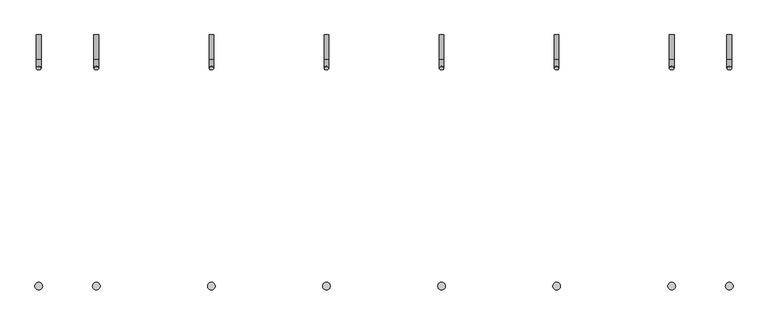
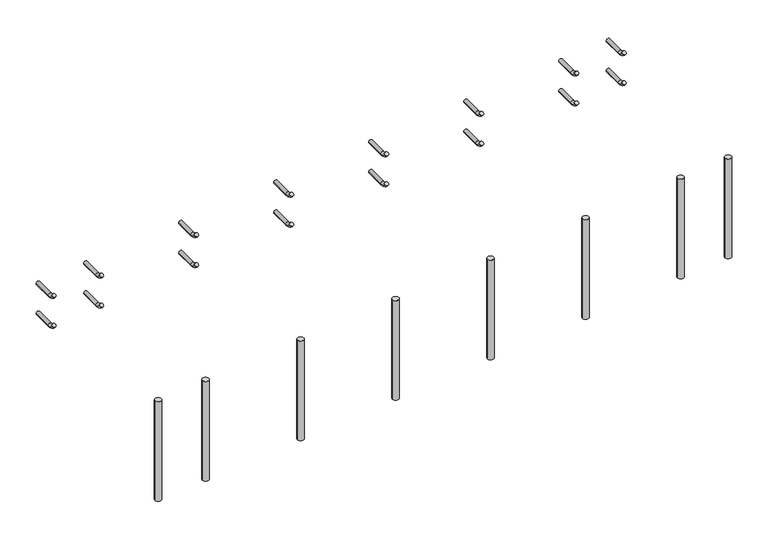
"""IFC4 building model written with IfcOpenShell, lengths in millimetres: proxy geometry, 常规模型 1 : 常规模型 1."""

from ifc_helpers import new_model, si_unit, point, frame, frame_2d, origin, place, context, project, spatial, circle_curve, ellipse_curve, trimmed, segment, composite_curve, outline, extrude, source, transform, mapped, element, save
from ifc_brep_helpers import plane_surface, cylinder_surface, revolved_surface, advanced_brep


def generic_models_b3a5f6b1(model_context):
    return source(origin(), model_context, "Body", "SolidModel", [
        advanced_brep(
        [(-5596.7579315, 4483.5094486, 180.0), (-5566.7579315, 4483.5094486, 180.0), (-5596.7579315, 4323.5094486, 180.0), (-5566.7579315, 4323.5094486, 180.0), (-5596.7579315, 4266.5887995, 206.5425346), (-5566.7579315, 4266.5887995, 206.5425346)],
        [
            (0, 1, circle_curve(frame((-5581.7579315, 4483.5094486, 180.0), z_axis=(0.0, 1.0, 0.0), x_axis=(1.0, 0.0, 0.0)), 15.0)),
            (1, 0, circle_curve(frame((-5581.7579315, 4483.5094486, 180.0), z_axis=(0.0, 1.0, 0.0), x_axis=(1.0, 0.0, 0.0)), 15.0)),
            (0, 2),
            (2, 3, circle_curve(frame((-5581.7579315, 4323.5094486, 180.0), z_axis=(0.0, 1.0, 0.0), x_axis=(1.0, 0.0, 0.0)), 15.0)),
            (3, 1),
            (3, 2, circle_curve(frame((-5581.7579315, 4323.5094486, 180.0), z_axis=(0.0, 1.0, 0.0), x_axis=(1.0, 0.0, 0.0)), 15.0)),
            (4, 5, circle_curve(frame((-5581.7579315, 4266.5887995, 206.5425346), z_axis=(0.0, -0.6427876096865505, 0.7660444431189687), x_axis=(1.0, 0.0, 0.0)), 15.0)),
            (5, 4, circle_curve(frame((-5581.7579315, 4266.5887995, 206.5425346), z_axis=(0.0, -0.6427876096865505, 0.7660444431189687), x_axis=(1.0, 0.0, 0.0)), 15.0)),
            (5, 3, circle_curve(frame((-5566.7579315, 4323.5094486, 254.3046302), z_axis=(1.0, 0.0, 0.0), x_axis=(0.0, 0.0, -1.0)), 74.3046302)),
            (2, 4, circle_curve(frame((-5596.7579315, 4323.5094486, 254.3046302), z_axis=(-1.0, 0.0, 0.0), x_axis=(0.0, 0.0, -1.0)), 74.3046302)),
        ],
        [
            plane_surface(frame((-5581.7579315, 4483.5094486, 180.0), z_axis=(0.0, 1.0, 0.0), x_axis=(1.0, 0.0, 0.0))),
            cylinder_surface(frame((-5581.7579315, 4483.5094486, 180.0), z_axis=(0.0, 1.0, 0.0), x_axis=(1.0, 0.0, 0.0)), 15.0),
            plane_surface(frame((-5581.7579315, 4266.5887995, 206.5425346), z_axis=(0.0, -0.6427876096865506, 0.7660444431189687), x_axis=(1.0, 0.0, 0.0))),
            revolved_surface(trimmed(ellipse_curve(frame((-5581.7579315, 4323.5094486, 180.0), z_axis=(0.0, 1.0, 0.0), x_axis=(1.0, 0.0, 0.0)), 15.0, 15.0), [point((-5596.7579315, 4323.5094486, 180.0))], [point((-5566.7579315, 4323.5094486, 180.0))], True, "CARTESIAN"), (-5581.7579315, 4323.5094486, 254.3046302), (-1.0, 0.0, 0.0)),
            revolved_surface(trimmed(ellipse_curve(frame((-5581.7579315, 4323.5094486, 180.0), z_axis=(0.0, 1.0, 0.0), x_axis=(1.0, 0.0, 0.0)), 15.0, 15.0), [point((-5566.7579315, 4323.5094486, 180.0))], [point((-5596.7579315, 4323.5094486, 180.0))], True, "CARTESIAN"), (-5581.7579315, 4323.5094486, 254.3046302), (-1.0, 0.0, 0.0)),
        ],
        [
            (0, [[1, 2]]),
            (1, [[-1, 3, 4, 5]]),
            (1, [[-2, -5, 6, -3]]),
            (2, [[7, 8]]),
            (3, [[9, -4, 10, -8]]),
            (4, [[-10, -6, -9, -7]]),
        ],
    ),
        advanced_brep(
        [(-5221.7579315, 4483.5094486, 217.5), (-5191.7579315, 4483.5094486, 217.5), (-5221.7579315, 4323.5094486, 217.5), (-5191.7579315, 4323.5094486, 217.5), (-5221.7579315, 4266.5887995, 244.0425346), (-5191.7579315, 4266.5887995, 244.0425346)],
        [
            (0, 1, circle_curve(frame((-5206.7579315, 4483.5094486, 217.5), z_axis=(0.0, 1.0, 0.0), x_axis=(1.0, 0.0, 0.0)), 15.0)),
            (1, 0, circle_curve(frame((-5206.7579315, 4483.5094486, 217.5), z_axis=(0.0, 1.0, 0.0), x_axis=(1.0, 0.0, 0.0)), 15.0)),
            (0, 2),
            (2, 3, circle_curve(frame((-5206.7579315, 4323.5094486, 217.5), z_axis=(0.0, 1.0, 0.0), x_axis=(1.0, 0.0, 0.0)), 15.0)),
            (3, 1),
            (3, 2, circle_curve(frame((-5206.7579315, 4323.5094486, 217.5), z_axis=(0.0, 1.0, 0.0), x_axis=(1.0, 0.0, 0.0)), 15.0)),
            (4, 5, circle_curve(frame((-5206.7579315, 4266.5887995, 244.0425346), z_axis=(0.0, -0.6427876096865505, 0.7660444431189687), x_axis=(1.0, 0.0, 0.0)), 15.0)),
            (5, 4, circle_curve(frame((-5206.7579315, 4266.5887995, 244.0425346), z_axis=(0.0, -0.6427876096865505, 0.7660444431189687), x_axis=(1.0, 0.0, 0.0)), 15.0)),
            (5, 3, circle_curve(frame((-5191.7579315, 4323.5094486, 291.8046302), z_axis=(1.0, 0.0, 0.0), x_axis=(0.0, 0.0, -1.0)), 74.3046302)),
            (2, 4, circle_curve(frame((-5221.7579315, 4323.5094486, 291.8046302), z_axis=(-1.0, 0.0, 0.0), x_axis=(0.0, 0.0, -1.0)), 74.3046302)),
        ],
        [
            plane_surface(frame((-5206.7579315, 4483.5094486, 217.5), z_axis=(0.0, 1.0, 0.0), x_axis=(1.0, 0.0, 0.0))),
            cylinder_surface(frame((-5206.7579315, 4483.5094486, 217.5), z_axis=(0.0, 1.0, 0.0), x_axis=(1.0, 0.0, 0.0)), 15.0),
            plane_surface(frame((-5206.7579315, 4266.5887995, 244.0425346), z_axis=(0.0, -0.6427876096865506, 0.7660444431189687), x_axis=(1.0, 0.0, 0.0))),
            revolved_surface(trimmed(ellipse_curve(frame((-5206.7579315, 4323.5094486, 217.5), z_axis=(0.0, 1.0, 0.0), x_axis=(1.0, 0.0, 0.0)), 15.0, 15.0), [point((-5221.7579315, 4323.5094486, 217.5))], [point((-5191.7579315, 4323.5094486, 217.5))], True, "CARTESIAN"), (-5206.7579315, 4323.5094486, 291.8046302), (-1.0, 0.0, 0.0)),
            revolved_surface(trimmed(ellipse_curve(frame((-5206.7579315, 4323.5094486, 217.5), z_axis=(0.0, 1.0, 0.0), x_axis=(1.0, 0.0, 0.0)), 15.0, 15.0), [point((-5191.7579315, 4323.5094486, 217.5))], [point((-5221.7579315, 4323.5094486, 217.5))], True, "CARTESIAN"), (-5206.7579315, 4323.5094486, 291.8046302), (-1.0, 0.0, 0.0)),
        ],
        [
            (0, [[1, 2]]),
            (1, [[-1, 3, 4, 5]]),
            (1, [[-2, -5, 6, -3]]),
            (2, [[7, 8]]),
            (3, [[9, -4, 10, -8]]),
            (4, [[-10, -6, -9, -7]]),
        ],
    ),
        advanced_brep(
        [(-4471.7579315, 4483.5094486, 292.5), (-4441.7579315, 4483.5094486, 292.5), (-4471.7579315, 4323.5094486, 292.5), (-4441.7579315, 4323.5094486, 292.5), (-4471.7579315, 4266.5887995, 319.0425346), (-4441.7579315, 4266.5887995, 319.0425346)],
        [
            (0, 1, circle_curve(frame((-4456.7579315, 4483.5094486, 292.5), z_axis=(0.0, 1.0, 0.0), x_axis=(1.0, 0.0, 0.0)), 15.0)),
            (1, 0, circle_curve(frame((-4456.7579315, 4483.5094486, 292.5), z_axis=(0.0, 1.0, 0.0), x_axis=(1.0, 0.0, 0.0)), 15.0)),
            (0, 2),
            (2, 3, circle_curve(frame((-4456.7579315, 4323.5094486, 292.5), z_axis=(0.0, 1.0, 0.0), x_axis=(1.0, 0.0, 0.0)), 15.0)),
            (3, 1),
            (3, 2, circle_curve(frame((-4456.7579315, 4323.5094486, 292.5), z_axis=(0.0, 1.0, 0.0), x_axis=(1.0, 0.0, 0.0)), 15.0)),
            (4, 5, circle_curve(frame((-4456.7579315, 4266.5887995, 319.0425346), z_axis=(0.0, -0.6427876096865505, 0.7660444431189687), x_axis=(1.0, 0.0, 0.0)), 15.0)),
            (5, 4, circle_curve(frame((-4456.7579315, 4266.5887995, 319.0425346), z_axis=(0.0, -0.6427876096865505, 0.7660444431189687), x_axis=(1.0, 0.0, 0.0)), 15.0)),
            (5, 3, circle_curve(frame((-4441.7579315, 4323.5094486, 366.8046302), z_axis=(1.0, 0.0, 0.0), x_axis=(0.0, 0.0, -1.0)), 74.3046302)),
            (2, 4, circle_curve(frame((-4471.7579315, 4323.5094486, 366.8046302), z_axis=(-1.0, 0.0, 0.0), x_axis=(0.0, 0.0, -1.0)), 74.3046302)),
        ],
        [
            plane_surface(frame((-4456.7579315, 4483.5094486, 292.5), z_axis=(0.0, 1.0, 0.0), x_axis=(1.0, 0.0, 0.0))),
            cylinder_surface(frame((-4456.7579315, 4483.5094486, 292.5), z_axis=(0.0, 1.0, 0.0), x_axis=(1.0, 0.0, 0.0)), 15.0),
            plane_surface(frame((-4456.7579315, 4266.5887995, 319.0425346), z_axis=(0.0, -0.6427876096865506, 0.7660444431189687), x_axis=(1.0, 0.0, 0.0))),
            revolved_surface(trimmed(ellipse_curve(frame((-4456.7579315, 4323.5094486, 292.5), z_axis=(0.0, 1.0, 0.0), x_axis=(1.0, 0.0, 0.0)), 15.0, 15.0), [point((-4471.7579315, 4323.5094486, 292.5))], [point((-4441.7579315, 4323.5094486, 292.5))], True, "CARTESIAN"), (-4456.7579315, 4323.5094486, 366.8046302), (-1.0, 0.0, 0.0)),
            revolved_surface(trimmed(ellipse_curve(frame((-4456.7579315, 4323.5094486, 292.5), z_axis=(0.0, 1.0, 0.0), x_axis=(1.0, 0.0, 0.0)), 15.0, 15.0), [point((-4441.7579315, 4323.5094486, 292.5))], [point((-4471.7579315, 4323.5094486, 292.5))], True, "CARTESIAN"), (-4456.7579315, 4323.5094486, 366.8046302), (-1.0, 0.0, 0.0)),
        ],
        [
            (0, [[1, 2]]),
            (1, [[-1, 3, 4, 5]]),
            (1, [[-2, -5, 6, -3]]),
            (2, [[7, 8]]),
            (3, [[9, -4, 10, -8]]),
            (4, [[-10, -6, -9, -7]]),
        ],
    ),
        advanced_brep(
        [(-3721.7579315, 4483.5094486, 367.5), (-3691.7579315, 4483.5094486, 367.5), (-3721.7579315, 4323.5094486, 367.5), (-3691.7579315, 4323.5094486, 367.5), (-3721.7579315, 4266.5887995, 394.0425346), (-3691.7579315, 4266.5887995, 394.0425346)],
        [
            (0, 1, circle_curve(frame((-3706.7579315, 4483.5094486, 367.5), z_axis=(0.0, 1.0, 0.0), x_axis=(1.0, 0.0, 0.0)), 15.0)),
            (1, 0, circle_curve(frame((-3706.7579315, 4483.5094486, 367.5), z_axis=(0.0, 1.0, 0.0), x_axis=(1.0, 0.0, 0.0)), 15.0)),
            (0, 2),
            (2, 3, circle_curve(frame((-3706.7579315, 4323.5094486, 367.5), z_axis=(0.0, 1.0, 0.0), x_axis=(1.0, 0.0, 0.0)), 15.0)),
            (3, 1),
            (3, 2, circle_curve(frame((-3706.7579315, 4323.5094486, 367.5), z_axis=(0.0, 1.0, 0.0), x_axis=(1.0, 0.0, 0.0)), 15.0)),
            (4, 5, circle_curve(frame((-3706.7579315, 4266.5887995, 394.0425346), z_axis=(0.0, -0.6427876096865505, 0.7660444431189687), x_axis=(1.0, 0.0, 0.0)), 15.0)),
            (5, 4, circle_curve(frame((-3706.7579315, 4266.5887995, 394.0425346), z_axis=(0.0, -0.6427876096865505, 0.7660444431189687), x_axis=(1.0, 0.0, 0.0)), 15.0)),
            (5, 3, circle_curve(frame((-3691.7579315, 4323.5094486, 441.8046302), z_axis=(1.0, 0.0, 0.0), x_axis=(0.0, 0.0, -1.0)), 74.3046302)),
            (2, 4, circle_curve(frame((-3721.7579315, 4323.5094486, 441.8046302), z_axis=(-1.0, 0.0, 0.0), x_axis=(0.0, 0.0, -1.0)), 74.3046302)),
        ],
        [
            plane_surface(frame((-3706.7579315, 4483.5094486, 367.5), z_axis=(0.0, 1.0, 0.0), x_axis=(1.0, 0.0, 0.0))),
            cylinder_surface(frame((-3706.7579315, 4483.5094486, 367.5), z_axis=(0.0, 1.0, 0.0), x_axis=(1.0, 0.0, 0.0)), 15.0),
            plane_surface(frame((-3706.7579315, 4266.5887995, 394.0425346), z_axis=(0.0, -0.6427876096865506, 0.7660444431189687), x_axis=(1.0, 0.0, 0.0))),
            revolved_surface(trimmed(ellipse_curve(frame((-3706.7579315, 4323.5094486, 367.5), z_axis=(0.0, 1.0, 0.0), x_axis=(1.0, 0.0, 0.0)), 15.0, 15.0), [point((-3721.7579315, 4323.5094486, 367.5))], [point((-3691.7579315, 4323.5094486, 367.5))], True, "CARTESIAN"), (-3706.7579315, 4323.5094486, 441.8046302), (-1.0, 0.0, 0.0)),
            revolved_surface(trimmed(ellipse_curve(frame((-3706.7579315, 4323.5094486, 367.5), z_axis=(0.0, 1.0, 0.0), x_axis=(1.0, 0.0, 0.0)), 15.0, 15.0), [point((-3691.7579315, 4323.5094486, 367.5))], [point((-3721.7579315, 4323.5094486, 367.5))], True, "CARTESIAN"), (-3706.7579315, 4323.5094486, 441.8046302), (-1.0, 0.0, 0.0)),
        ],
        [
            (0, [[1, 2]]),
            (1, [[-1, 3, 4, 5]]),
            (1, [[-2, -5, 6, -3]]),
            (2, [[7, 8]]),
            (3, [[9, -4, 10, -8]]),
            (4, [[-10, -6, -9, -7]]),
        ],
    ),
        advanced_brep(
        [(-2971.7579315, 4483.5094486, 442.5), (-2941.7579315, 4483.5094486, 442.5), (-2971.7579315, 4323.5094486, 442.5), (-2941.7579315, 4323.5094486, 442.5), (-2971.7579315, 4266.5887995, 469.0425346), (-2941.7579315, 4266.5887995, 469.0425346)],
        [
            (0, 1, circle_curve(frame((-2956.7579315, 4483.5094486, 442.5), z_axis=(0.0, 1.0, 0.0), x_axis=(1.0, 0.0, 0.0)), 15.0)),
            (1, 0, circle_curve(frame((-2956.7579315, 4483.5094486, 442.5), z_axis=(0.0, 1.0, 0.0), x_axis=(1.0, 0.0, 0.0)), 15.0)),
            (0, 2),
            (2, 3, circle_curve(frame((-2956.7579315, 4323.5094486, 442.5), z_axis=(0.0, 1.0, 0.0), x_axis=(1.0, 0.0, 0.0)), 15.0)),
            (3, 1),
            (3, 2, circle_curve(frame((-2956.7579315, 4323.5094486, 442.5), z_axis=(0.0, 1.0, 0.0), x_axis=(1.0, 0.0, 0.0)), 15.0)),
            (4, 5, circle_curve(frame((-2956.7579315, 4266.5887995, 469.0425346), z_axis=(0.0, -0.6427876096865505, 0.7660444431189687), x_axis=(1.0, 0.0, 0.0)), 15.0)),
            (5, 4, circle_curve(frame((-2956.7579315, 4266.5887995, 469.0425346), z_axis=(0.0, -0.6427876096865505, 0.7660444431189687), x_axis=(1.0, 0.0, 0.0)), 15.0)),
            (5, 3, circle_curve(frame((-2941.7579315, 4323.5094486, 516.8046302), z_axis=(1.0, 0.0, 0.0), x_axis=(0.0, 0.0, -1.0)), 74.3046302)),
            (2, 4, circle_curve(frame((-2971.7579315, 4323.5094486, 516.8046302), z_axis=(-1.0, 0.0, 0.0), x_axis=(0.0, 0.0, -1.0)), 74.3046302)),
        ],
        [
            plane_surface(frame((-2956.7579315, 4483.5094486, 442.5), z_axis=(0.0, 1.0, 0.0), x_axis=(1.0, 0.0, 0.0))),
            cylinder_surface(frame((-2956.7579315, 4483.5094486, 442.5), z_axis=(0.0, 1.0, 0.0), x_axis=(1.0, 0.0, 0.0)), 15.0),
            plane_surface(frame((-2956.7579315, 4266.5887995, 469.0425346), z_axis=(0.0, -0.6427876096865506, 0.7660444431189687), x_axis=(1.0, 0.0, 0.0))),
            revolved_surface(trimmed(ellipse_curve(frame((-2956.7579315, 4323.5094486, 442.5), z_axis=(0.0, 1.0, 0.0), x_axis=(1.0, 0.0, 0.0)), 15.0, 15.0), [point((-2971.7579315, 4323.5094486, 442.5))], [point((-2941.7579315, 4323.5094486, 442.5))], True, "CARTESIAN"), (-2956.7579315, 4323.5094486, 516.8046302), (-1.0, 0.0, 0.0)),
            revolved_surface(trimmed(ellipse_curve(frame((-2956.7579315, 4323.5094486, 442.5), z_axis=(0.0, 1.0, 0.0), x_axis=(1.0, 0.0, 0.0)), 15.0, 15.0), [point((-2941.7579315, 4323.5094486, 442.5))], [point((-2971.7579315, 4323.5094486, 442.5))], True, "CARTESIAN"), (-2956.7579315, 4323.5094486, 516.8046302), (-1.0, 0.0, 0.0)),
        ],
        [
            (0, [[1, 2]]),
            (1, [[-1, 3, 4, 5]]),
            (1, [[-2, -5, 6, -3]]),
            (2, [[7, 8]]),
            (3, [[9, -4, 10, -8]]),
            (4, [[-10, -6, -9, -7]]),
        ],
    ),
        advanced_brep(
        [(-2221.7579315, 4483.5094486, 517.5), (-2191.7579315, 4483.5094486, 517.5), (-2221.7579315, 4323.5094486, 517.5), (-2191.7579315, 4323.5094486, 517.5), (-2221.7579315, 4266.5887995, 544.0425346), (-2191.7579315, 4266.5887995, 544.0425346)],
        [
            (0, 1, circle_curve(frame((-2206.7579315, 4483.5094486, 517.5), z_axis=(0.0, 1.0, 0.0), x_axis=(1.0, 0.0, 0.0)), 15.0)),
            (1, 0, circle_curve(frame((-2206.7579315, 4483.5094486, 517.5), z_axis=(0.0, 1.0, 0.0), x_axis=(1.0, 0.0, 0.0)), 15.0)),
            (0, 2),
            (2, 3, circle_curve(frame((-2206.7579315, 4323.5094486, 517.5), z_axis=(0.0, 1.0, 0.0), x_axis=(1.0, 0.0, 0.0)), 15.0)),
            (3, 1),
            (3, 2, circle_curve(frame((-2206.7579315, 4323.5094486, 517.5), z_axis=(0.0, 1.0, 0.0), x_axis=(1.0, 0.0, 0.0)), 15.0)),
            (4, 5, circle_curve(frame((-2206.7579315, 4266.5887995, 544.0425346), z_axis=(0.0, -0.6427876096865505, 0.7660444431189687), x_axis=(1.0, 0.0, 0.0)), 15.0)),
            (5, 4, circle_curve(frame((-2206.7579315, 4266.5887995, 544.0425346), z_axis=(0.0, -0.6427876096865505, 0.7660444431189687), x_axis=(1.0, 0.0, 0.0)), 15.0)),
            (5, 3, circle_curve(frame((-2191.7579315, 4323.5094486, 591.8046302), z_axis=(1.0, 0.0, 0.0), x_axis=(0.0, 0.0, -1.0)), 74.3046302)),
            (2, 4, circle_curve(frame((-2221.7579315, 4323.5094486, 591.8046302), z_axis=(-1.0, 0.0, 0.0), x_axis=(0.0, 0.0, -1.0)), 74.3046302)),
        ],
        [
            plane_surface(frame((-2206.7579315, 4483.5094486, 517.5), z_axis=(0.0, 1.0, 0.0), x_axis=(1.0, 0.0, 0.0))),
            cylinder_surface(frame((-2206.7579315, 4483.5094486, 517.5), z_axis=(0.0, 1.0, 0.0), x_axis=(1.0, 0.0, 0.0)), 15.0),
            plane_surface(frame((-2206.7579315, 4266.5887995, 544.0425346), z_axis=(0.0, -0.6427876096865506, 0.7660444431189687), x_axis=(1.0, 0.0, 0.0))),
            revolved_surface(trimmed(ellipse_curve(frame((-2206.7579315, 4323.5094486, 517.5), z_axis=(0.0, 1.0, 0.0), x_axis=(1.0, 0.0, 0.0)), 15.0, 15.0), [point((-2221.7579315, 4323.5094486, 517.5))], [point((-2191.7579315, 4323.5094486, 517.5))], True, "CARTESIAN"), (-2206.7579315, 4323.5094486, 591.8046302), (-1.0, 0.0, 0.0)),
            revolved_surface(trimmed(ellipse_curve(frame((-2206.7579315, 4323.5094486, 517.5), z_axis=(0.0, 1.0, 0.0), x_axis=(1.0, 0.0, 0.0)), 15.0, 15.0), [point((-2191.7579315, 4323.5094486, 517.5))], [point((-2221.7579315, 4323.5094486, 517.5))], True, "CARTESIAN"), (-2206.7579315, 4323.5094486, 591.8046302), (-1.0, 0.0, 0.0)),
        ],
        [
            (0, [[1, 2]]),
            (1, [[-1, 3, 4, 5]]),
            (1, [[-2, -5, 6, -3]]),
            (2, [[7, 8]]),
            (3, [[9, -4, 10, -8]]),
            (4, [[-10, -6, -9, -7]]),
        ],
    ),
        advanced_brep(
        [(-1471.7579315, 4483.5094486, 592.5), (-1441.7579315, 4483.5094486, 592.5), (-1471.7579315, 4323.5094486, 592.5), (-1441.7579315, 4323.5094486, 592.5), (-1471.7579315, 4266.5887995, 619.0425346), (-1441.7579315, 4266.5887995, 619.0425346)],
        [
            (0, 1, circle_curve(frame((-1456.7579315, 4483.5094486, 592.5), z_axis=(0.0, 1.0, 0.0), x_axis=(1.0, 0.0, 0.0)), 15.0)),
            (1, 0, circle_curve(frame((-1456.7579315, 4483.5094486, 592.5), z_axis=(0.0, 1.0, 0.0), x_axis=(1.0, 0.0, 0.0)), 15.0)),
            (0, 2),
            (2, 3, circle_curve(frame((-1456.7579315, 4323.5094486, 592.5), z_axis=(0.0, 1.0, 0.0), x_axis=(1.0, 0.0, 0.0)), 15.0)),
            (3, 1),
            (3, 2, circle_curve(frame((-1456.7579315, 4323.5094486, 592.5), z_axis=(0.0, 1.0, 0.0), x_axis=(1.0, 0.0, 0.0)), 15.0)),
            (4, 5, circle_curve(frame((-1456.7579315, 4266.5887995, 619.0425346), z_axis=(0.0, -0.6427876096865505, 0.7660444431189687), x_axis=(1.0, 0.0, 0.0)), 15.0)),
            (5, 4, circle_curve(frame((-1456.7579315, 4266.5887995, 619.0425346), z_axis=(0.0, -0.6427876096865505, 0.7660444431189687), x_axis=(1.0, 0.0, 0.0)), 15.0)),
            (5, 3, circle_curve(frame((-1441.7579315, 4323.5094486, 666.8046302), z_axis=(1.0, 0.0, 0.0), x_axis=(0.0, 0.0, -1.0)), 74.3046302)),
            (2, 4, circle_curve(frame((-1471.7579315, 4323.5094486, 666.8046302), z_axis=(-1.0, 0.0, 0.0), x_axis=(0.0, 0.0, -1.0)), 74.3046302)),
        ],
        [
            plane_surface(frame((-1456.7579315, 4483.5094486, 592.5), z_axis=(0.0, 1.0, 0.0), x_axis=(1.0, 0.0, 0.0))),
            cylinder_surface(frame((-1456.7579315, 4483.5094486, 592.5), z_axis=(0.0, 1.0, 0.0), x_axis=(1.0, 0.0, 0.0)), 15.0),
            plane_surface(frame((-1456.7579315, 4266.5887995, 619.0425346), z_axis=(0.0, -0.6427876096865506, 0.7660444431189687), x_axis=(1.0, 0.0, 0.0))),
            revolved_surface(trimmed(ellipse_curve(frame((-1456.7579315, 4323.5094486, 592.5), z_axis=(0.0, 1.0, 0.0), x_axis=(1.0, 0.0, 0.0)), 15.0, 15.0), [point((-1471.7579315, 4323.5094486, 592.5))], [point((-1441.7579315, 4323.5094486, 592.5))], True, "CARTESIAN"), (-1456.7579315, 4323.5094486, 666.8046302), (-1.0, 0.0, 0.0)),
            revolved_surface(trimmed(ellipse_curve(frame((-1456.7579315, 4323.5094486, 592.5), z_axis=(0.0, 1.0, 0.0), x_axis=(1.0, 0.0, 0.0)), 15.0, 15.0), [point((-1441.7579315, 4323.5094486, 592.5))], [point((-1471.7579315, 4323.5094486, 592.5))], True, "CARTESIAN"), (-1456.7579315, 4323.5094486, 666.8046302), (-1.0, 0.0, 0.0)),
        ],
        [
            (0, [[1, 2]]),
            (1, [[-1, 3, 4, 5]]),
            (1, [[-2, -5, 6, -3]]),
            (2, [[7, 8]]),
            (3, [[9, -4, 10, -8]]),
            (4, [[-10, -6, -9, -7]]),
        ],
    ),
        advanced_brep(
        [(-1096.7579315, 4483.5094486, 630.0), (-1066.7579315, 4483.5094486, 630.0), (-1096.7579315, 4323.5094486, 630.0), (-1066.7579315, 4323.5094486, 630.0), (-1096.7579315, 4266.5887995, 656.5425346), (-1066.7579315, 4266.5887995, 656.5425346)],
        [
            (0, 1, circle_curve(frame((-1081.7579315, 4483.5094486, 630.0), z_axis=(0.0, 1.0, 0.0), x_axis=(1.0, 0.0, 0.0)), 15.0)),
            (1, 0, circle_curve(frame((-1081.7579315, 4483.5094486, 630.0), z_axis=(0.0, 1.0, 0.0), x_axis=(1.0, 0.0, 0.0)), 15.0)),
            (0, 2),
            (2, 3, circle_curve(frame((-1081.7579315, 4323.5094486, 630.0), z_axis=(0.0, 1.0, 0.0), x_axis=(1.0, 0.0, 0.0)), 15.0)),
            (3, 1),
            (3, 2, circle_curve(frame((-1081.7579315, 4323.5094486, 630.0), z_axis=(0.0, 1.0, 0.0), x_axis=(1.0, 0.0, 0.0)), 15.0)),
            (4, 5, circle_curve(frame((-1081.7579315, 4266.5887995, 656.5425346), z_axis=(0.0, -0.6427876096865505, 0.7660444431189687), x_axis=(1.0, 0.0, 0.0)), 15.0)),
            (5, 4, circle_curve(frame((-1081.7579315, 4266.5887995, 656.5425346), z_axis=(0.0, -0.6427876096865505, 0.7660444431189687), x_axis=(1.0, 0.0, 0.0)), 15.0)),
            (5, 3, circle_curve(frame((-1066.7579315, 4323.5094486, 704.3046302), z_axis=(1.0, 0.0, 0.0), x_axis=(0.0, 0.0, -1.0)), 74.3046302)),
            (2, 4, circle_curve(frame((-1096.7579315, 4323.5094486, 704.3046302), z_axis=(-1.0, 0.0, 0.0), x_axis=(0.0, 0.0, -1.0)), 74.3046302)),
        ],
        [
            plane_surface(frame((-1081.7579315, 4483.5094486, 630.0), z_axis=(0.0, 1.0, 0.0), x_axis=(1.0, 0.0, 0.0))),
            cylinder_surface(frame((-1081.7579315, 4483.5094486, 630.0), z_axis=(0.0, 1.0, 0.0), x_axis=(1.0, 0.0, 0.0)), 15.0),
            plane_surface(frame((-1081.7579315, 4266.5887995, 656.5425346), z_axis=(0.0, -0.6427876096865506, 0.7660444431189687), x_axis=(1.0, 0.0, 0.0))),
            revolved_surface(trimmed(ellipse_curve(frame((-1081.7579315, 4323.5094486, 630.0), z_axis=(0.0, 1.0, 0.0), x_axis=(1.0, 0.0, 0.0)), 15.0, 15.0), [point((-1096.7579315, 4323.5094486, 630.0))], [point((-1066.7579315, 4323.5094486, 630.0))], True, "CARTESIAN"), (-1081.7579315, 4323.5094486, 704.3046302), (-1.0, 0.0, 0.0)),
            revolved_surface(trimmed(ellipse_curve(frame((-1081.7579315, 4323.5094486, 630.0), z_axis=(0.0, 1.0, 0.0), x_axis=(1.0, 0.0, 0.0)), 15.0, 15.0), [point((-1066.7579315, 4323.5094486, 630.0))], [point((-1096.7579315, 4323.5094486, 630.0))], True, "CARTESIAN"), (-1081.7579315, 4323.5094486, 704.3046302), (-1.0, 0.0, 0.0)),
        ],
        [
            (0, [[1, 2]]),
            (1, [[-1, 3, 4, 5]]),
            (1, [[-2, -5, 6, -3]]),
            (2, [[7, 8]]),
            (3, [[9, -4, 10, -8]]),
            (4, [[-10, -6, -9, -7]]),
        ],
    ),
        advanced_brep(
        [(-5596.7579315, 4483.5094486, 430.0), (-5566.7579315, 4483.5094486, 430.0), (-5596.7579315, 4323.5094486, 430.0), (-5566.7579315, 4323.5094486, 430.0), (-5596.7579315, 4266.5887995, 456.5425346), (-5566.7579315, 4266.5887995, 456.5425346)],
        [
            (0, 1, circle_curve(frame((-5581.7579315, 4483.5094486, 430.0), z_axis=(0.0, 1.0, 0.0), x_axis=(1.0, 0.0, 0.0)), 15.0)),
            (1, 0, circle_curve(frame((-5581.7579315, 4483.5094486, 430.0), z_axis=(0.0, 1.0, 0.0), x_axis=(1.0, 0.0, 0.0)), 15.0)),
            (0, 2),
            (2, 3, circle_curve(frame((-5581.7579315, 4323.5094486, 430.0), z_axis=(0.0, 1.0, 0.0), x_axis=(1.0, 0.0, 0.0)), 15.0)),
            (3, 1),
            (3, 2, circle_curve(frame((-5581.7579315, 4323.5094486, 430.0), z_axis=(0.0, 1.0, 0.0), x_axis=(1.0, 0.0, 0.0)), 15.0)),
            (4, 5, circle_curve(frame((-5581.7579315, 4266.5887995, 456.5425346), z_axis=(0.0, -0.6427876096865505, 0.7660444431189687), x_axis=(1.0, 0.0, 0.0)), 15.0)),
            (5, 4, circle_curve(frame((-5581.7579315, 4266.5887995, 456.5425346), z_axis=(0.0, -0.6427876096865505, 0.7660444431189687), x_axis=(1.0, 0.0, 0.0)), 15.0)),
            (5, 3, circle_curve(frame((-5566.7579315, 4323.5094486, 504.3046302), z_axis=(1.0, 0.0, 0.0), x_axis=(0.0, 0.0, -1.0)), 74.3046302)),
            (2, 4, circle_curve(frame((-5596.7579315, 4323.5094486, 504.3046302), z_axis=(-1.0, 0.0, 0.0), x_axis=(0.0, 0.0, -1.0)), 74.3046302)),
        ],
        [
            plane_surface(frame((-5581.7579315, 4483.5094486, 430.0), z_axis=(0.0, 1.0, 0.0), x_axis=(1.0, 0.0, 0.0))),
            cylinder_surface(frame((-5581.7579315, 4483.5094486, 430.0), z_axis=(0.0, 1.0, 0.0), x_axis=(1.0, 0.0, 0.0)), 15.0),
            plane_surface(frame((-5581.7579315, 4266.5887995, 456.5425346), z_axis=(0.0, -0.6427876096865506, 0.7660444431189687), x_axis=(1.0, 0.0, 0.0))),
            revolved_surface(trimmed(ellipse_curve(frame((-5581.7579315, 4323.5094486, 430.0), z_axis=(0.0, 1.0, 0.0), x_axis=(1.0, 0.0, 0.0)), 15.0, 15.0), [point((-5596.7579315, 4323.5094486, 430.0))], [point((-5566.7579315, 4323.5094486, 430.0))], True, "CARTESIAN"), (-5581.7579315, 4323.5094486, 504.3046302), (-1.0, 0.0, 0.0)),
            revolved_surface(trimmed(ellipse_curve(frame((-5581.7579315, 4323.5094486, 430.0), z_axis=(0.0, 1.0, 0.0), x_axis=(1.0, 0.0, 0.0)), 15.0, 15.0), [point((-5566.7579315, 4323.5094486, 430.0))], [point((-5596.7579315, 4323.5094486, 430.0))], True, "CARTESIAN"), (-5581.7579315, 4323.5094486, 504.3046302), (-1.0, 0.0, 0.0)),
        ],
        [
            (0, [[1, 2]]),
            (1, [[-1, 3, 4, 5]]),
            (1, [[-2, -5, 6, -3]]),
            (2, [[7, 8]]),
            (3, [[9, -4, 10, -8]]),
            (4, [[-10, -6, -9, -7]]),
        ],
    ),
        advanced_brep(
        [(-5221.7579315, 4483.5094486, 467.5), (-5191.7579315, 4483.5094486, 467.5), (-5221.7579315, 4323.5094486, 467.5), (-5191.7579315, 4323.5094486, 467.5), (-5221.7579315, 4266.5887995, 494.0425346), (-5191.7579315, 4266.5887995, 494.0425346)],
        [
            (0, 1, circle_curve(frame((-5206.7579315, 4483.5094486, 467.5), z_axis=(0.0, 1.0, 0.0), x_axis=(1.0, 0.0, 0.0)), 15.0)),
            (1, 0, circle_curve(frame((-5206.7579315, 4483.5094486, 467.5), z_axis=(0.0, 1.0, 0.0), x_axis=(1.0, 0.0, 0.0)), 15.0)),
            (0, 2),
            (2, 3, circle_curve(frame((-5206.7579315, 4323.5094486, 467.5), z_axis=(0.0, 1.0, 0.0), x_axis=(1.0, 0.0, 0.0)), 15.0)),
            (3, 1),
            (3, 2, circle_curve(frame((-5206.7579315, 4323.5094486, 467.5), z_axis=(0.0, 1.0, 0.0), x_axis=(1.0, 0.0, 0.0)), 15.0)),
            (4, 5, circle_curve(frame((-5206.7579315, 4266.5887995, 494.0425346), z_axis=(0.0, -0.6427876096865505, 0.7660444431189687), x_axis=(1.0, 0.0, 0.0)), 15.0)),
            (5, 4, circle_curve(frame((-5206.7579315, 4266.5887995, 494.0425346), z_axis=(0.0, -0.6427876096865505, 0.7660444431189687), x_axis=(1.0, 0.0, 0.0)), 15.0)),
            (5, 3, circle_curve(frame((-5191.7579315, 4323.5094486, 541.8046302), z_axis=(1.0, 0.0, 0.0), x_axis=(0.0, 0.0, -1.0)), 74.3046302)),
            (2, 4, circle_curve(frame((-5221.7579315, 4323.5094486, 541.8046302), z_axis=(-1.0, 0.0, 0.0), x_axis=(0.0, 0.0, -1.0)), 74.3046302)),
        ],
        [
            plane_surface(frame((-5206.7579315, 4483.5094486, 467.5), z_axis=(0.0, 1.0, 0.0), x_axis=(1.0, 0.0, 0.0))),
            cylinder_surface(frame((-5206.7579315, 4483.5094486, 467.5), z_axis=(0.0, 1.0, 0.0), x_axis=(1.0, 0.0, 0.0)), 15.0),
            plane_surface(frame((-5206.7579315, 4266.5887995, 494.0425346), z_axis=(0.0, -0.6427876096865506, 0.7660444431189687), x_axis=(1.0, 0.0, 0.0))),
            revolved_surface(trimmed(ellipse_curve(frame((-5206.7579315, 4323.5094486, 467.5), z_axis=(0.0, 1.0, 0.0), x_axis=(1.0, 0.0, 0.0)), 15.0, 15.0), [point((-5221.7579315, 4323.5094486, 467.5))], [point((-5191.7579315, 4323.5094486, 467.5))], True, "CARTESIAN"), (-5206.7579315, 4323.5094486, 541.8046302), (-1.0, 0.0, 0.0)),
            revolved_surface(trimmed(ellipse_curve(frame((-5206.7579315, 4323.5094486, 467.5), z_axis=(0.0, 1.0, 0.0), x_axis=(1.0, 0.0, 0.0)), 15.0, 15.0), [point((-5191.7579315, 4323.5094486, 467.5))], [point((-5221.7579315, 4323.5094486, 467.5))], True, "CARTESIAN"), (-5206.7579315, 4323.5094486, 541.8046302), (-1.0, 0.0, 0.0)),
        ],
        [
            (0, [[1, 2]]),
            (1, [[-1, 3, 4, 5]]),
            (1, [[-2, -5, 6, -3]]),
            (2, [[7, 8]]),
            (3, [[9, -4, 10, -8]]),
            (4, [[-10, -6, -9, -7]]),
        ],
    ),
        advanced_brep(
        [(-4471.7579315, 4483.5094486, 542.5), (-4441.7579315, 4483.5094486, 542.5), (-4471.7579315, 4323.5094486, 542.5), (-4441.7579315, 4323.5094486, 542.5), (-4471.7579315, 4266.5887995, 569.0425346), (-4441.7579315, 4266.5887995, 569.0425346)],
        [
            (0, 1, circle_curve(frame((-4456.7579315, 4483.5094486, 542.5), z_axis=(0.0, 1.0, 0.0), x_axis=(1.0, 0.0, 0.0)), 15.0)),
            (1, 0, circle_curve(frame((-4456.7579315, 4483.5094486, 542.5), z_axis=(0.0, 1.0, 0.0), x_axis=(1.0, 0.0, 0.0)), 15.0)),
            (0, 2),
            (2, 3, circle_curve(frame((-4456.7579315, 4323.5094486, 542.5), z_axis=(0.0, 1.0, 0.0), x_axis=(1.0, 0.0, 0.0)), 15.0)),
            (3, 1),
            (3, 2, circle_curve(frame((-4456.7579315, 4323.5094486, 542.5), z_axis=(0.0, 1.0, 0.0), x_axis=(1.0, 0.0, 0.0)), 15.0)),
            (4, 5, circle_curve(frame((-4456.7579315, 4266.5887995, 569.0425346), z_axis=(0.0, -0.6427876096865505, 0.7660444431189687), x_axis=(1.0, 0.0, 0.0)), 15.0)),
            (5, 4, circle_curve(frame((-4456.7579315, 4266.5887995, 569.0425346), z_axis=(0.0, -0.6427876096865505, 0.7660444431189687), x_axis=(1.0, 0.0, 0.0)), 15.0)),
            (5, 3, circle_curve(frame((-4441.7579315, 4323.5094486, 616.8046302), z_axis=(1.0, 0.0, 0.0), x_axis=(0.0, 0.0, -1.0)), 74.3046302)),
            (2, 4, circle_curve(frame((-4471.7579315, 4323.5094486, 616.8046302), z_axis=(-1.0, 0.0, 0.0), x_axis=(0.0, 0.0, -1.0)), 74.3046302)),
        ],
        [
            plane_surface(frame((-4456.7579315, 4483.5094486, 542.5), z_axis=(0.0, 1.0, 0.0), x_axis=(1.0, 0.0, 0.0))),
            cylinder_surface(frame((-4456.7579315, 4483.5094486, 542.5), z_axis=(0.0, 1.0, 0.0), x_axis=(1.0, 0.0, 0.0)), 15.0),
            plane_surface(frame((-4456.7579315, 4266.5887995, 569.0425346), z_axis=(0.0, -0.6427876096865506, 0.7660444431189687), x_axis=(1.0, 0.0, 0.0))),
            revolved_surface(trimmed(ellipse_curve(frame((-4456.7579315, 4323.5094486, 542.5), z_axis=(0.0, 1.0, 0.0), x_axis=(1.0, 0.0, 0.0)), 15.0, 15.0), [point((-4471.7579315, 4323.5094486, 542.5))], [point((-4441.7579315, 4323.5094486, 542.5))], True, "CARTESIAN"), (-4456.7579315, 4323.5094486, 616.8046302), (-1.0, 0.0, 0.0)),
            revolved_surface(trimmed(ellipse_curve(frame((-4456.7579315, 4323.5094486, 542.5), z_axis=(0.0, 1.0, 0.0), x_axis=(1.0, 0.0, 0.0)), 15.0, 15.0), [point((-4441.7579315, 4323.5094486, 542.5))], [point((-4471.7579315, 4323.5094486, 542.5))], True, "CARTESIAN"), (-4456.7579315, 4323.5094486, 616.8046302), (-1.0, 0.0, 0.0)),
        ],
        [
            (0, [[1, 2]]),
            (1, [[-1, 3, 4, 5]]),
            (1, [[-2, -5, 6, -3]]),
            (2, [[7, 8]]),
            (3, [[9, -4, 10, -8]]),
            (4, [[-10, -6, -9, -7]]),
        ],
    ),
        advanced_brep(
        [(-3721.7579315, 4483.5094486, 617.5), (-3691.7579315, 4483.5094486, 617.5), (-3721.7579315, 4323.5094486, 617.5), (-3691.7579315, 4323.5094486, 617.5), (-3721.7579315, 4266.5887995, 644.0425346), (-3691.7579315, 4266.5887995, 644.0425346)],
        [
            (0, 1, circle_curve(frame((-3706.7579315, 4483.5094486, 617.5), z_axis=(0.0, 1.0, 0.0), x_axis=(1.0, 0.0, 0.0)), 15.0)),
            (1, 0, circle_curve(frame((-3706.7579315, 4483.5094486, 617.5), z_axis=(0.0, 1.0, 0.0), x_axis=(1.0, 0.0, 0.0)), 15.0)),
            (0, 2),
            (2, 3, circle_curve(frame((-3706.7579315, 4323.5094486, 617.5), z_axis=(0.0, 1.0, 0.0), x_axis=(1.0, 0.0, 0.0)), 15.0)),
            (3, 1),
            (3, 2, circle_curve(frame((-3706.7579315, 4323.5094486, 617.5), z_axis=(0.0, 1.0, 0.0), x_axis=(1.0, 0.0, 0.0)), 15.0)),
            (4, 5, circle_curve(frame((-3706.7579315, 4266.5887995, 644.0425346), z_axis=(0.0, -0.6427876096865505, 0.7660444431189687), x_axis=(1.0, 0.0, 0.0)), 15.0)),
            (5, 4, circle_curve(frame((-3706.7579315, 4266.5887995, 644.0425346), z_axis=(0.0, -0.6427876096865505, 0.7660444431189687), x_axis=(1.0, 0.0, 0.0)), 15.0)),
            (5, 3, circle_curve(frame((-3691.7579315, 4323.5094486, 691.8046302), z_axis=(1.0, 0.0, 0.0), x_axis=(0.0, 0.0, -1.0)), 74.3046302)),
            (2, 4, circle_curve(frame((-3721.7579315, 4323.5094486, 691.8046302), z_axis=(-1.0, 0.0, 0.0), x_axis=(0.0, 0.0, -1.0)), 74.3046302)),
        ],
        [
            plane_surface(frame((-3706.7579315, 4483.5094486, 617.5), z_axis=(0.0, 1.0, 0.0), x_axis=(1.0, 0.0, 0.0))),
            cylinder_surface(frame((-3706.7579315, 4483.5094486, 617.5), z_axis=(0.0, 1.0, 0.0), x_axis=(1.0, 0.0, 0.0)), 15.0),
            plane_surface(frame((-3706.7579315, 4266.5887995, 644.0425346), z_axis=(0.0, -0.6427876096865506, 0.7660444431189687), x_axis=(1.0, 0.0, 0.0))),
            revolved_surface(trimmed(ellipse_curve(frame((-3706.7579315, 4323.5094486, 617.5), z_axis=(0.0, 1.0, 0.0), x_axis=(1.0, 0.0, 0.0)), 15.0, 15.0), [point((-3721.7579315, 4323.5094486, 617.5))], [point((-3691.7579315, 4323.5094486, 617.5))], True, "CARTESIAN"), (-3706.7579315, 4323.5094486, 691.8046302), (-1.0, 0.0, 0.0)),
            revolved_surface(trimmed(ellipse_curve(frame((-3706.7579315, 4323.5094486, 617.5), z_axis=(0.0, 1.0, 0.0), x_axis=(1.0, 0.0, 0.0)), 15.0, 15.0), [point((-3691.7579315, 4323.5094486, 617.5))], [point((-3721.7579315, 4323.5094486, 617.5))], True, "CARTESIAN"), (-3706.7579315, 4323.5094486, 691.8046302), (-1.0, 0.0, 0.0)),
        ],
        [
            (0, [[1, 2]]),
            (1, [[-1, 3, 4, 5]]),
            (1, [[-2, -5, 6, -3]]),
            (2, [[7, 8]]),
            (3, [[9, -4, 10, -8]]),
            (4, [[-10, -6, -9, -7]]),
        ],
    ),
        advanced_brep(
        [(-2971.7579315, 4483.5094486, 692.5), (-2941.7579315, 4483.5094486, 692.5), (-2971.7579315, 4323.5094486, 692.5), (-2941.7579315, 4323.5094486, 692.5), (-2971.7579315, 4266.5887995, 719.0425346), (-2941.7579315, 4266.5887995, 719.0425346)],
        [
            (0, 1, circle_curve(frame((-2956.7579315, 4483.5094486, 692.5), z_axis=(0.0, 1.0, 0.0), x_axis=(1.0, 0.0, 0.0)), 15.0)),
            (1, 0, circle_curve(frame((-2956.7579315, 4483.5094486, 692.5), z_axis=(0.0, 1.0, 0.0), x_axis=(1.0, 0.0, 0.0)), 15.0)),
            (0, 2),
            (2, 3, circle_curve(frame((-2956.7579315, 4323.5094486, 692.5), z_axis=(0.0, 1.0, 0.0), x_axis=(1.0, 0.0, 0.0)), 15.0)),
            (3, 1),
            (3, 2, circle_curve(frame((-2956.7579315, 4323.5094486, 692.5), z_axis=(0.0, 1.0, 0.0), x_axis=(1.0, 0.0, 0.0)), 15.0)),
            (4, 5, circle_curve(frame((-2956.7579315, 4266.5887995, 719.0425346), z_axis=(0.0, -0.6427876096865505, 0.7660444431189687), x_axis=(1.0, 0.0, 0.0)), 15.0)),
            (5, 4, circle_curve(frame((-2956.7579315, 4266.5887995, 719.0425346), z_axis=(0.0, -0.6427876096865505, 0.7660444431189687), x_axis=(1.0, 0.0, 0.0)), 15.0)),
            (5, 3, circle_curve(frame((-2941.7579315, 4323.5094486, 766.8046302), z_axis=(1.0, 0.0, 0.0), x_axis=(0.0, 0.0, -1.0)), 74.3046302)),
            (2, 4, circle_curve(frame((-2971.7579315, 4323.5094486, 766.8046302), z_axis=(-1.0, 0.0, 0.0), x_axis=(0.0, 0.0, -1.0)), 74.3046302)),
        ],
        [
            plane_surface(frame((-2956.7579315, 4483.5094486, 692.5), z_axis=(0.0, 1.0, 0.0), x_axis=(1.0, 0.0, 0.0))),
            cylinder_surface(frame((-2956.7579315, 4483.5094486, 692.5), z_axis=(0.0, 1.0, 0.0), x_axis=(1.0, 0.0, 0.0)), 15.0),
            plane_surface(frame((-2956.7579315, 4266.5887995, 719.0425346), z_axis=(0.0, -0.6427876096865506, 0.7660444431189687), x_axis=(1.0, 0.0, 0.0))),
            revolved_surface(trimmed(ellipse_curve(frame((-2956.7579315, 4323.5094486, 692.5), z_axis=(0.0, 1.0, 0.0), x_axis=(1.0, 0.0, 0.0)), 15.0, 15.0), [point((-2971.7579315, 4323.5094486, 692.5))], [point((-2941.7579315, 4323.5094486, 692.5))], True, "CARTESIAN"), (-2956.7579315, 4323.5094486, 766.8046302), (-1.0, 0.0, 0.0)),
            revolved_surface(trimmed(ellipse_curve(frame((-2956.7579315, 4323.5094486, 692.5), z_axis=(0.0, 1.0, 0.0), x_axis=(1.0, 0.0, 0.0)), 15.0, 15.0), [point((-2941.7579315, 4323.5094486, 692.5))], [point((-2971.7579315, 4323.5094486, 692.5))], True, "CARTESIAN"), (-2956.7579315, 4323.5094486, 766.8046302), (-1.0, 0.0, 0.0)),
        ],
        [
            (0, [[1, 2]]),
            (1, [[-1, 3, 4, 5]]),
            (1, [[-2, -5, 6, -3]]),
            (2, [[7, 8]]),
            (3, [[9, -4, 10, -8]]),
            (4, [[-10, -6, -9, -7]]),
        ],
    ),
        advanced_brep(
        [(-2221.7579315, 4483.5094486, 767.5), (-2191.7579315, 4483.5094486, 767.5), (-2221.7579315, 4323.5094486, 767.5), (-2191.7579315, 4323.5094486, 767.5), (-2221.7579315, 4266.5887995, 794.0425346), (-2191.7579315, 4266.5887995, 794.0425346)],
        [
            (0, 1, circle_curve(frame((-2206.7579315, 4483.5094486, 767.5), z_axis=(0.0, 1.0, 0.0), x_axis=(1.0, 0.0, 0.0)), 15.0)),
            (1, 0, circle_curve(frame((-2206.7579315, 4483.5094486, 767.5), z_axis=(0.0, 1.0, 0.0), x_axis=(1.0, 0.0, 0.0)), 15.0)),
            (0, 2),
            (2, 3, circle_curve(frame((-2206.7579315, 4323.5094486, 767.5), z_axis=(0.0, 1.0, 0.0), x_axis=(1.0, 0.0, 0.0)), 15.0)),
            (3, 1),
            (3, 2, circle_curve(frame((-2206.7579315, 4323.5094486, 767.5), z_axis=(0.0, 1.0, 0.0), x_axis=(1.0, 0.0, 0.0)), 15.0)),
            (4, 5, circle_curve(frame((-2206.7579315, 4266.5887995, 794.0425346), z_axis=(0.0, -0.6427876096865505, 0.7660444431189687), x_axis=(1.0, 0.0, 0.0)), 15.0)),
            (5, 4, circle_curve(frame((-2206.7579315, 4266.5887995, 794.0425346), z_axis=(0.0, -0.6427876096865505, 0.7660444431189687), x_axis=(1.0, 0.0, 0.0)), 15.0)),
            (5, 3, circle_curve(frame((-2191.7579315, 4323.5094486, 841.8046302), z_axis=(1.0, 0.0, 0.0), x_axis=(0.0, 0.0, -1.0)), 74.3046302)),
            (2, 4, circle_curve(frame((-2221.7579315, 4323.5094486, 841.8046302), z_axis=(-1.0, 0.0, 0.0), x_axis=(0.0, 0.0, -1.0)), 74.3046302)),
        ],
        [
            plane_surface(frame((-2206.7579315, 4483.5094486, 767.5), z_axis=(0.0, 1.0, 0.0), x_axis=(1.0, 0.0, 0.0))),
            cylinder_surface(frame((-2206.7579315, 4483.5094486, 767.5), z_axis=(0.0, 1.0, 0.0), x_axis=(1.0, 0.0, 0.0)), 15.0),
            plane_surface(frame((-2206.7579315, 4266.5887995, 794.0425346), z_axis=(0.0, -0.6427876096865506, 0.7660444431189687), x_axis=(1.0, 0.0, 0.0))),
            revolved_surface(trimmed(ellipse_curve(frame((-2206.7579315, 4323.5094486, 767.5), z_axis=(0.0, 1.0, 0.0), x_axis=(1.0, 0.0, 0.0)), 15.0, 15.0), [point((-2221.7579315, 4323.5094486, 767.5))], [point((-2191.7579315, 4323.5094486, 767.5))], True, "CARTESIAN"), (-2206.7579315, 4323.5094486, 841.8046302), (-1.0, 0.0, 0.0)),
            revolved_surface(trimmed(ellipse_curve(frame((-2206.7579315, 4323.5094486, 767.5), z_axis=(0.0, 1.0, 0.0), x_axis=(1.0, 0.0, 0.0)), 15.0, 15.0), [point((-2191.7579315, 4323.5094486, 767.5))], [point((-2221.7579315, 4323.5094486, 767.5))], True, "CARTESIAN"), (-2206.7579315, 4323.5094486, 841.8046302), (-1.0, 0.0, 0.0)),
        ],
        [
            (0, [[1, 2]]),
            (1, [[-1, 3, 4, 5]]),
            (1, [[-2, -5, 6, -3]]),
            (2, [[7, 8]]),
            (3, [[9, -4, 10, -8]]),
            (4, [[-10, -6, -9, -7]]),
        ],
    ),
        advanced_brep(
        [(-1471.7579315, 4483.5094486, 842.5), (-1441.7579315, 4483.5094486, 842.5), (-1471.7579315, 4323.5094486, 842.5), (-1441.7579315, 4323.5094486, 842.5), (-1471.7579315, 4266.5887995, 869.0425346), (-1441.7579315, 4266.5887995, 869.0425346)],
        [
            (0, 1, circle_curve(frame((-1456.7579315, 4483.5094486, 842.5), z_axis=(0.0, 1.0, 0.0), x_axis=(1.0, 0.0, 0.0)), 15.0)),
            (1, 0, circle_curve(frame((-1456.7579315, 4483.5094486, 842.5), z_axis=(0.0, 1.0, 0.0), x_axis=(1.0, 0.0, 0.0)), 15.0)),
            (0, 2),
            (2, 3, circle_curve(frame((-1456.7579315, 4323.5094486, 842.5), z_axis=(0.0, 1.0, 0.0), x_axis=(1.0, 0.0, 0.0)), 15.0)),
            (3, 1),
            (3, 2, circle_curve(frame((-1456.7579315, 4323.5094486, 842.5), z_axis=(0.0, 1.0, 0.0), x_axis=(1.0, 0.0, 0.0)), 15.0)),
            (4, 5, circle_curve(frame((-1456.7579315, 4266.5887995, 869.0425346), z_axis=(0.0, -0.6427876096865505, 0.7660444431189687), x_axis=(1.0, 0.0, 0.0)), 15.0)),
            (5, 4, circle_curve(frame((-1456.7579315, 4266.5887995, 869.0425346), z_axis=(0.0, -0.6427876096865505, 0.7660444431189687), x_axis=(1.0, 0.0, 0.0)), 15.0)),
            (5, 3, circle_curve(frame((-1441.7579315, 4323.5094486, 916.8046302), z_axis=(1.0, 0.0, 0.0), x_axis=(0.0, 0.0, -1.0)), 74.3046302)),
            (2, 4, circle_curve(frame((-1471.7579315, 4323.5094486, 916.8046302), z_axis=(-1.0, 0.0, 0.0), x_axis=(0.0, 0.0, -1.0)), 74.3046302)),
        ],
        [
            plane_surface(frame((-1456.7579315, 4483.5094486, 842.5), z_axis=(0.0, 1.0, 0.0), x_axis=(1.0, 0.0, 0.0))),
            cylinder_surface(frame((-1456.7579315, 4483.5094486, 842.5), z_axis=(0.0, 1.0, 0.0), x_axis=(1.0, 0.0, 0.0)), 15.0),
            plane_surface(frame((-1456.7579315, 4266.5887995, 869.0425346), z_axis=(0.0, -0.6427876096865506, 0.7660444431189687), x_axis=(1.0, 0.0, 0.0))),
            revolved_surface(trimmed(ellipse_curve(frame((-1456.7579315, 4323.5094486, 842.5), z_axis=(0.0, 1.0, 0.0), x_axis=(1.0, 0.0, 0.0)), 15.0, 15.0), [point((-1471.7579315, 4323.5094486, 842.5))], [point((-1441.7579315, 4323.5094486, 842.5))], True, "CARTESIAN"), (-1456.7579315, 4323.5094486, 916.8046302), (-1.0, 0.0, 0.0)),
            revolved_surface(trimmed(ellipse_curve(frame((-1456.7579315, 4323.5094486, 842.5), z_axis=(0.0, 1.0, 0.0), x_axis=(1.0, 0.0, 0.0)), 15.0, 15.0), [point((-1441.7579315, 4323.5094486, 842.5))], [point((-1471.7579315, 4323.5094486, 842.5))], True, "CARTESIAN"), (-1456.7579315, 4323.5094486, 916.8046302), (-1.0, 0.0, 0.0)),
        ],
        [
            (0, [[1, 2]]),
            (1, [[-1, 3, 4, 5]]),
            (1, [[-2, -5, 6, -3]]),
            (2, [[7, 8]]),
            (3, [[9, -4, 10, -8]]),
            (4, [[-10, -6, -9, -7]]),
        ],
    ),
        advanced_brep(
        [(-1096.7579315, 4483.5094486, 880.0), (-1066.7579315, 4483.5094486, 880.0), (-1096.7579315, 4323.5094486, 880.0), (-1066.7579315, 4323.5094486, 880.0), (-1096.7579315, 4266.5887995, 906.5425346), (-1066.7579315, 4266.5887995, 906.5425346)],
        [
            (0, 1, circle_curve(frame((-1081.7579315, 4483.5094486, 880.0), z_axis=(0.0, 1.0, 0.0), x_axis=(1.0, 0.0, 0.0)), 15.0)),
            (1, 0, circle_curve(frame((-1081.7579315, 4483.5094486, 880.0), z_axis=(0.0, 1.0, 0.0), x_axis=(1.0, 0.0, 0.0)), 15.0)),
            (0, 2),
            (2, 3, circle_curve(frame((-1081.7579315, 4323.5094486, 880.0), z_axis=(0.0, 1.0, 0.0), x_axis=(1.0, 0.0, 0.0)), 15.0)),
            (3, 1),
            (3, 2, circle_curve(frame((-1081.7579315, 4323.5094486, 880.0), z_axis=(0.0, 1.0, 0.0), x_axis=(1.0, 0.0, 0.0)), 15.0)),
            (4, 5, circle_curve(frame((-1081.7579315, 4266.5887995, 906.5425346), z_axis=(0.0, -0.6427876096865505, 0.7660444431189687), x_axis=(1.0, 0.0, 0.0)), 15.0)),
            (5, 4, circle_curve(frame((-1081.7579315, 4266.5887995, 906.5425346), z_axis=(0.0, -0.6427876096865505, 0.7660444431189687), x_axis=(1.0, 0.0, 0.0)), 15.0)),
            (5, 3, circle_curve(frame((-1066.7579315, 4323.5094486, 954.3046302), z_axis=(1.0, 0.0, 0.0), x_axis=(0.0, 0.0, -1.0)), 74.3046302)),
            (2, 4, circle_curve(frame((-1096.7579315, 4323.5094486, 954.3046302), z_axis=(-1.0, 0.0, 0.0), x_axis=(0.0, 0.0, -1.0)), 74.3046302)),
        ],
        [
            plane_surface(frame((-1081.7579315, 4483.5094486, 880.0), z_axis=(0.0, 1.0, 0.0), x_axis=(1.0, 0.0, 0.0))),
            cylinder_surface(frame((-1081.7579315, 4483.5094486, 880.0), z_axis=(0.0, 1.0, 0.0), x_axis=(1.0, 0.0, 0.0)), 15.0),
            plane_surface(frame((-1081.7579315, 4266.5887995, 906.5425346), z_axis=(0.0, -0.6427876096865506, 0.7660444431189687), x_axis=(1.0, 0.0, 0.0))),
            revolved_surface(trimmed(ellipse_curve(frame((-1081.7579315, 4323.5094486, 880.0), z_axis=(0.0, 1.0, 0.0), x_axis=(1.0, 0.0, 0.0)), 15.0, 15.0), [point((-1096.7579315, 4323.5094486, 880.0))], [point((-1066.7579315, 4323.5094486, 880.0))], True, "CARTESIAN"), (-1081.7579315, 4323.5094486, 954.3046302), (-1.0, 0.0, 0.0)),
            revolved_surface(trimmed(ellipse_curve(frame((-1081.7579315, 4323.5094486, 880.0), z_axis=(0.0, 1.0, 0.0), x_axis=(1.0, 0.0, 0.0)), 15.0, 15.0), [point((-1066.7579315, 4323.5094486, 880.0))], [point((-1096.7579315, 4323.5094486, 880.0))], True, "CARTESIAN"), (-1081.7579315, 4323.5094486, 954.3046302), (-1.0, 0.0, 0.0)),
        ],
        [
            (0, [[1, 2]]),
            (1, [[-1, 3, 4, 5]]),
            (1, [[-2, -5, 6, -3]]),
            (2, [[7, 8]]),
            (3, [[9, -4, 10, -8]]),
            (4, [[-10, -6, -9, -7]]),
        ],
    ),
        extrude(outline(composite_curve([segment(trimmed(circle_curve(frame_2d((-5581.7579315, 2843.5094486)), 25.0), [point((-5606.7579315, 2843.5094486))], [point((-5556.7579315, 2843.5094486))], False, "CARTESIAN"), True, "CONTINUOUS"), segment(trimmed(circle_curve(frame_2d((-5581.7579315, 2843.5094486)), 25.0), [point((-5556.7579315, 2843.5094486))], [point((-5606.7579315, 2843.5094486))], False, "CARTESIAN"), True, "CONTINUOUS")], self_intersect=False)), frame((0.0, 0.0, -380.0), z_axis=(0.0, 0.0, 1.0), x_axis=(1.0, 0.0, 0.0)), (0.0, 0.0, 1.0), 830.0),
        extrude(outline(composite_curve([segment(trimmed(circle_curve(frame_2d((-5206.7579312, 2843.5094486)), 25.0), [point((-5231.7579312, 2843.5094486))], [point((-5181.7579312, 2843.5094486))], False, "CARTESIAN"), True, "CONTINUOUS"), segment(trimmed(circle_curve(frame_2d((-5206.7579312, 2843.5094486)), 25.0), [point((-5181.7579312, 2843.5094486))], [point((-5231.7579312, 2843.5094486))], False, "CARTESIAN"), True, "CONTINUOUS")], self_intersect=False)), frame((0.0, 0.0, -342.5), z_axis=(0.0, 0.0, 1.0), x_axis=(1.0, 0.0, 0.0)), (0.0, 0.0, 1.0), 830.0),
        extrude(outline(composite_curve([segment(trimmed(circle_curve(frame_2d((-4456.7579312, 2843.5094486)), 25.0), [point((-4481.7579312, 2843.5094486))], [point((-4431.7579312, 2843.5094486))], False, "CARTESIAN"), True, "CONTINUOUS"), segment(trimmed(circle_curve(frame_2d((-4456.7579312, 2843.5094486)), 25.0), [point((-4431.7579312, 2843.5094486))], [point((-4481.7579312, 2843.5094486))], False, "CARTESIAN"), True, "CONTINUOUS")], self_intersect=False)), frame((0.0, 0.0, -267.5), z_axis=(0.0, 0.0, 1.0), x_axis=(1.0, 0.0, 0.0)), (0.0, 0.0, 1.0), 830.0),
        extrude(outline(composite_curve([segment(trimmed(circle_curve(frame_2d((-3706.7579312, 2843.5094486)), 25.0), [point((-3731.7579312, 2843.5094486))], [point((-3681.7579312, 2843.5094486))], False, "CARTESIAN"), True, "CONTINUOUS"), segment(trimmed(circle_curve(frame_2d((-3706.7579312, 2843.5094486)), 25.0), [point((-3681.7579312, 2843.5094486))], [point((-3731.7579312, 2843.5094486))], False, "CARTESIAN"), True, "CONTINUOUS")], self_intersect=False)), frame((0.0, 0.0, -192.5), z_axis=(0.0, 0.0, 1.0), x_axis=(1.0, 0.0, 0.0)), (0.0, 0.0, 1.0), 830.0),
        extrude(outline(composite_curve([segment(trimmed(circle_curve(frame_2d((-2956.7579312, 2843.5094486)), 25.0), [point((-2981.7579312, 2843.5094486))], [point((-2931.7579312, 2843.5094486))], False, "CARTESIAN"), True, "CONTINUOUS"), segment(trimmed(circle_curve(frame_2d((-2956.7579312, 2843.5094486)), 25.0), [point((-2931.7579312, 2843.5094486))], [point((-2981.7579312, 2843.5094486))], False, "CARTESIAN"), True, "CONTINUOUS")], self_intersect=False)), frame((0.0, 0.0, -117.5), z_axis=(0.0, 0.0, 1.0), x_axis=(1.0, 0.0, 0.0)), (0.0, 0.0, 1.0), 830.0),
        extrude(outline(composite_curve([segment(trimmed(circle_curve(frame_2d((-2206.7579312, 2843.5094486)), 25.0), [point((-2231.7579312, 2843.5094486))], [point((-2181.7579312, 2843.5094486))], False, "CARTESIAN"), True, "CONTINUOUS"), segment(trimmed(circle_curve(frame_2d((-2206.7579312, 2843.5094486)), 25.0), [point((-2181.7579312, 2843.5094486))], [point((-2231.7579312, 2843.5094486))], False, "CARTESIAN"), True, "CONTINUOUS")], self_intersect=False)), frame((0.0, 0.0, -42.5), z_axis=(0.0, 0.0, 1.0), x_axis=(1.0, 0.0, 0.0)), (0.0, 0.0, 1.0), 830.0),
        extrude(outline(composite_curve([segment(trimmed(circle_curve(frame_2d((-1456.7579312, 2843.5094486)), 25.0), [point((-1481.7579312, 2843.5094486))], [point((-1431.7579312, 2843.5094486))], False, "CARTESIAN"), True, "CONTINUOUS"), segment(trimmed(circle_curve(frame_2d((-1456.7579312, 2843.5094486)), 25.0), [point((-1431.7579312, 2843.5094486))], [point((-1481.7579312, 2843.5094486))], False, "CARTESIAN"), True, "CONTINUOUS")], self_intersect=False)), frame((0.0, 0.0, 32.5), z_axis=(0.0, 0.0, 1.0), x_axis=(1.0, 0.0, 0.0)), (0.0, 0.0, 1.0), 830.0),
        extrude(outline(composite_curve([segment(trimmed(circle_curve(frame_2d((-1081.7579315, 2843.5094486)), 25.0), [point((-1106.7579315, 2843.5094486))], [point((-1056.7579315, 2843.5094486))], False, "CARTESIAN"), True, "CONTINUOUS"), segment(trimmed(circle_curve(frame_2d((-1081.7579315, 2843.5094486)), 25.0), [point((-1056.7579315, 2843.5094486))], [point((-1106.7579315, 2843.5094486))], False, "CARTESIAN"), True, "CONTINUOUS")], self_intersect=False)), frame((0.0, 0.0, 70.0), z_axis=(0.0, 0.0, 1.0), x_axis=(1.0, 0.0, 0.0)), (0.0, 0.0, 1.0), 830.0),
    ])


if __name__ == "__main__":
    model = new_model("IFC4")
    model_context = context("Model", 3, world=origin())
    ifc_project = project(units=[si_unit("LENGTHUNIT", "METRE", prefix="MILLI")], contexts=[model_context])
    site = spatial("IfcSite", under=ifc_project)
    building = spatial("IfcBuilding", under=site)
    placement = place(None, origin())
    generic_models_shape = generic_models_b3a5f6b1(model_context)
    element("IfcBuildingElementProxy", 1, Name="常规模型 1 : 常规模型 1", ObjectType="常规模型 1 : 常规模型 1", at=placement, inside=building, context=model_context, shape_type="MappedRepresentation", body=[
        mapped(generic_models_shape, transform((0.0, 0.0, 0.0), x_axis=(1.0, 0.0, 0.0), y_axis=(0.0, 1.0, 0.0), z_axis=(0.0, 0.0, 1.0))),
    ])
    save(model, "model.ifc")
